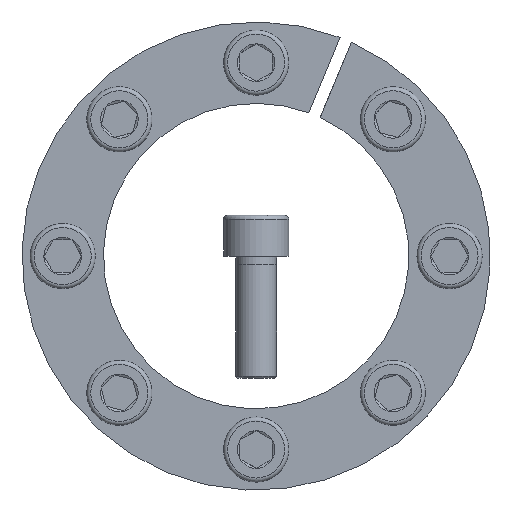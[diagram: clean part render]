
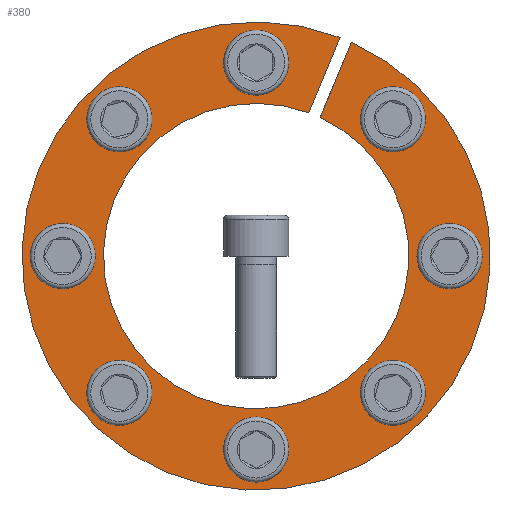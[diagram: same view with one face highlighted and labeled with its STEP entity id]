
A CAD part, front view. The second image highlights one B-rep face of the part: STEP entity #380.
In plain terms, the highlighted planar face has unit normal (0, -1, 0).
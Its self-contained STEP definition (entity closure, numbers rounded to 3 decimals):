
#380 = ADVANCED_FACE( '', ( #583, #584, #585, #586, #587, #588, #589, #590, #591 ), #592, .F. );
#583 = FACE_BOUND( '', #747, .T. );
#584 = FACE_BOUND( '', #748, .T. );
#585 = FACE_BOUND( '', #749, .T. );
#586 = FACE_BOUND( '', #750, .T. );
#587 = FACE_OUTER_BOUND( '', #751, .T. );
#588 = FACE_BOUND( '', #752, .T. );
#589 = FACE_BOUND( '', #753, .T. );
#590 = FACE_BOUND( '', #754, .T. );
#591 = FACE_BOUND( '', #755, .T. );
#592 = PLANE( '', #756 );
#747 = EDGE_LOOP( '', ( #960 ) );
#748 = EDGE_LOOP( '', ( #961 ) );
#749 = EDGE_LOOP( '', ( #962 ) );
#750 = EDGE_LOOP( '', ( #963 ) );
#751 = EDGE_LOOP( '', ( #964, #965, #966, #967 ) );
#752 = EDGE_LOOP( '', ( #968 ) );
#753 = EDGE_LOOP( '', ( #969 ) );
#754 = EDGE_LOOP( '', ( #970 ) );
#755 = EDGE_LOOP( '', ( #971 ) );
#756 = AXIS2_PLACEMENT_3D( '', #972, #973, #974 );
#960 = ORIENTED_EDGE( '', *, *, #1294, .T. );
#961 = ORIENTED_EDGE( '', *, *, #1295, .T. );
#962 = ORIENTED_EDGE( '', *, *, #1296, .T. );
#963 = ORIENTED_EDGE( '', *, *, #1297, .T. );
#964 = ORIENTED_EDGE( '', *, *, #1292, .F. );
#965 = ORIENTED_EDGE( '', *, *, #1288, .F. );
#966 = ORIENTED_EDGE( '', *, *, #1298, .T. );
#967 = ORIENTED_EDGE( '', *, *, #1299, .F. );
#968 = ORIENTED_EDGE( '', *, *, #1300, .T. );
#969 = ORIENTED_EDGE( '', *, *, #1301, .T. );
#970 = ORIENTED_EDGE( '', *, *, #1302, .T. );
#971 = ORIENTED_EDGE( '', *, *, #1303, .T. );
#972 = CARTESIAN_POINT( '', ( 0., 0., 57.5 ) );
#973 = DIRECTION( '', ( 0., 1., 0. ) );
#974 = DIRECTION( '', ( 0., 0., 1. ) );
#1288 = EDGE_CURVE( '', #1423, #1425, #1426, .T. );
#1292 = EDGE_CURVE( '', #1425, #1432, #1433, .T. );
#1294 = EDGE_CURVE( '', #1435, #1435, #1436, .T. );
#1295 = EDGE_CURVE( '', #1437, #1437, #1438, .T. );
#1296 = EDGE_CURVE( '', #1439, #1439, #1440, .T. );
#1297 = EDGE_CURVE( '', #1441, #1441, #1442, .T. );
#1298 = EDGE_CURVE( '', #1423, #1443, #1444, .T. );
#1299 = EDGE_CURVE( '', #1432, #1443, #1445, .T. );
#1300 = EDGE_CURVE( '', #1446, #1446, #1447, .T. );
#1301 = EDGE_CURVE( '', #1448, #1448, #1449, .T. );
#1302 = EDGE_CURVE( '', #1450, #1450, #1451, .T. );
#1303 = EDGE_CURVE( '', #1452, #1452, #1453, .T. );
#1423 = VERTEX_POINT( '', #1551 );
#1425 = VERTEX_POINT( '', #1554 );
#1426 = LINE( '', #1555, #1556 );
#1432 = VERTEX_POINT( '', #1564 );
#1433 = CIRCLE( '', #1565, 37.5 );
#1435 = VERTEX_POINT( '', #1568 );
#1436 = CIRCLE( '', #1569, 5. );
#1437 = VERTEX_POINT( '', #1570 );
#1438 = CIRCLE( '', #1571, 5. );
#1439 = VERTEX_POINT( '', #1572 );
#1440 = CIRCLE( '', #1573, 5. );
#1441 = VERTEX_POINT( '', #1574 );
#1442 = CIRCLE( '', #1575, 5. );
#1443 = VERTEX_POINT( '', #1576 );
#1444 = CIRCLE( '', #1577, 57.5 );
#1445 = LINE( '', #1578, #1579 );
#1446 = VERTEX_POINT( '', #1580 );
#1447 = CIRCLE( '', #1581, 5. );
#1448 = VERTEX_POINT( '', #1582 );
#1449 = CIRCLE( '', #1583, 5. );
#1450 = VERTEX_POINT( '', #1584 );
#1451 = CIRCLE( '', #1585, 5. );
#1452 = VERTEX_POINT( '', #1586 );
#1453 = CIRCLE( '', #1587, 5. );
#1551 = CARTESIAN_POINT( '', ( 20.611, 0., 53.679 ) );
#1554 = CARTESIAN_POINT( '', ( 12.953, 0., 35.192 ) );
#1555 = CARTESIAN_POINT( '', ( 20.618, 0., 53.697 ) );
#1556 = VECTOR( '', #1674, 1000. );
#1564 = CARTESIAN_POINT( '', ( 15.725, 0., 34.044 ) );
#1565 = AXIS2_PLACEMENT_3D( '', #1680, #1681, #1682 );
#1568 = CARTESIAN_POINT( '', ( -47.5, 0., 5. ) );
#1569 = AXIS2_PLACEMENT_3D( '', #1684, #1685, #1686 );
#1570 = CARTESIAN_POINT( '', ( -5., 0., -47.5 ) );
#1571 = AXIS2_PLACEMENT_3D( '', #1687, #1688, #1689 );
#1572 = CARTESIAN_POINT( '', ( 47.5, 0., -5. ) );
#1573 = AXIS2_PLACEMENT_3D( '', #1690, #1691, #1692 );
#1574 = CARTESIAN_POINT( '', ( 5., 0., 47.5 ) );
#1575 = AXIS2_PLACEMENT_3D( '', #1693, #1694, #1695 );
#1576 = CARTESIAN_POINT( '', ( 23.383, 0., 52.531 ) );
#1577 = AXIS2_PLACEMENT_3D( '', #1696, #1697, #1698 );
#1578 = CARTESIAN_POINT( '', ( 15.725, 0., 34.044 ) );
#1579 = VECTOR( '', #1699, 1000. );
#1580 = CARTESIAN_POINT( '', ( 37.123, 0., 30.052 ) );
#1581 = AXIS2_PLACEMENT_3D( '', #1700, #1701, #1702 );
#1582 = CARTESIAN_POINT( '', ( 30.052, 0., -37.123 ) );
#1583 = AXIS2_PLACEMENT_3D( '', #1703, #1704, #1705 );
#1584 = CARTESIAN_POINT( '', ( -37.123, 0., -30.052 ) );
#1585 = AXIS2_PLACEMENT_3D( '', #1706, #1707, #1708 );
#1586 = CARTESIAN_POINT( '', ( -30.052, 0., 37.123 ) );
#1587 = AXIS2_PLACEMENT_3D( '', #1709, #1710, #1711 );
#1674 = DIRECTION( '', ( -0.383, 0., -0.924 ) );
#1680 = CARTESIAN_POINT( '', ( 0., 0., 0. ) );
#1681 = DIRECTION( '', ( 0., -1., 0. ) );
#1682 = DIRECTION( '', ( 0., 0., -1. ) );
#1684 = CARTESIAN_POINT( '', ( -47.5, 0., 0. ) );
#1685 = DIRECTION( '', ( 0., 1., 0. ) );
#1686 = DIRECTION( '', ( 0., 0., 1. ) );
#1687 = CARTESIAN_POINT( '', ( 0., 0., -47.5 ) );
#1688 = DIRECTION( '', ( 0., 1., 0. ) );
#1689 = DIRECTION( '', ( -1., 0., 0. ) );
#1690 = CARTESIAN_POINT( '', ( 47.5, 0., 0. ) );
#1691 = DIRECTION( '', ( 0., 1., 0. ) );
#1692 = DIRECTION( '', ( 0., 0., -1. ) );
#1693 = CARTESIAN_POINT( '', ( 0., 0., 47.5 ) );
#1694 = DIRECTION( '', ( 0., 1., 0. ) );
#1695 = DIRECTION( '', ( 1., 0., 0. ) );
#1696 = CARTESIAN_POINT( '', ( 0., 0., 0. ) );
#1697 = DIRECTION( '', ( 0., -1., 0. ) );
#1698 = DIRECTION( '', ( 0., 0., -1. ) );
#1699 = DIRECTION( '', ( 0.383, 0., 0.924 ) );
#1700 = CARTESIAN_POINT( '', ( 33.588, 0., 33.588 ) );
#1701 = DIRECTION( '', ( 0., 1., 0. ) );
#1702 = DIRECTION( '', ( 0.707, 0., -0.707 ) );
#1703 = CARTESIAN_POINT( '', ( 33.588, 0., -33.588 ) );
#1704 = DIRECTION( '', ( 0., 1., 0. ) );
#1705 = DIRECTION( '', ( -0.707, 0., -0.707 ) );
#1706 = CARTESIAN_POINT( '', ( -33.588, 0., -33.588 ) );
#1707 = DIRECTION( '', ( 0., 1., 0. ) );
#1708 = DIRECTION( '', ( -0.707, 0., 0.707 ) );
#1709 = CARTESIAN_POINT( '', ( -33.588, 0., 33.588 ) );
#1710 = DIRECTION( '', ( 0., 1., 0. ) );
#1711 = DIRECTION( '', ( 0.707, 0., 0.707 ) );
